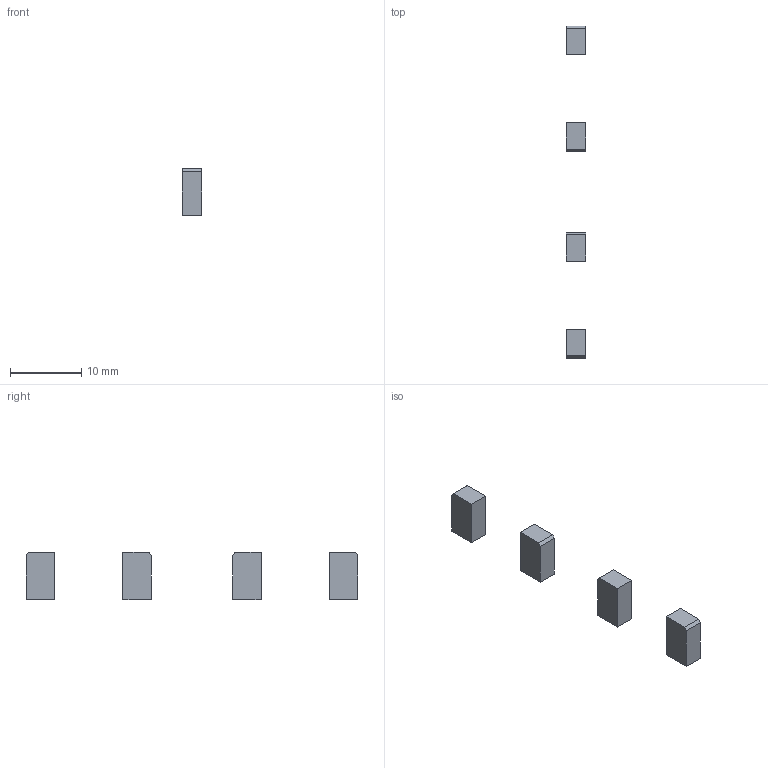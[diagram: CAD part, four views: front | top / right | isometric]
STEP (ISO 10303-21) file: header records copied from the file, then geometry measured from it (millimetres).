
FILE_DESCRIPTION(('Open CASCADE Model'),'2;1');
FILE_NAME('Open CASCADE Shape Model','2026-09-15T13:49:33',('Author'),( 'Open CASCADE'),'Open CASCADE STEP processor 7.7','Open CASCADE 7.7' ,'Unknown');
FILE_SCHEMA(('AUTOMOTIVE_DESIGN { 1 0 10303 214 1 1 1 1 }'));
Length unit declared in the file: millimetre
Products named in the file (5): ASSEMBLY; SOLID
Assembly tree (4 placements, depth 2):
  ASSEMBLY
    SOLID
    SOLID
    SOLID
    SOLID
Bounding box: 2.8 x 46.6 x 6.6 mm (x, y, z)
Volume: 295 mm3; surface area: 445.7 mm2
Topology: 4 solids, 4 shells, 28 faces, 60 edges, 40 vertices
Faces by surface type: plane 24, cylinder 4
Entity records: 1592 total; most frequent: CARTESIAN_POINT 269, DIRECTION 238, LINE 148, VECTOR 148, ORIENTED_EDGE 120, PCURVE 120, DEFINITIONAL_REPRESENTATION 120, EDGE_CURVE 60
